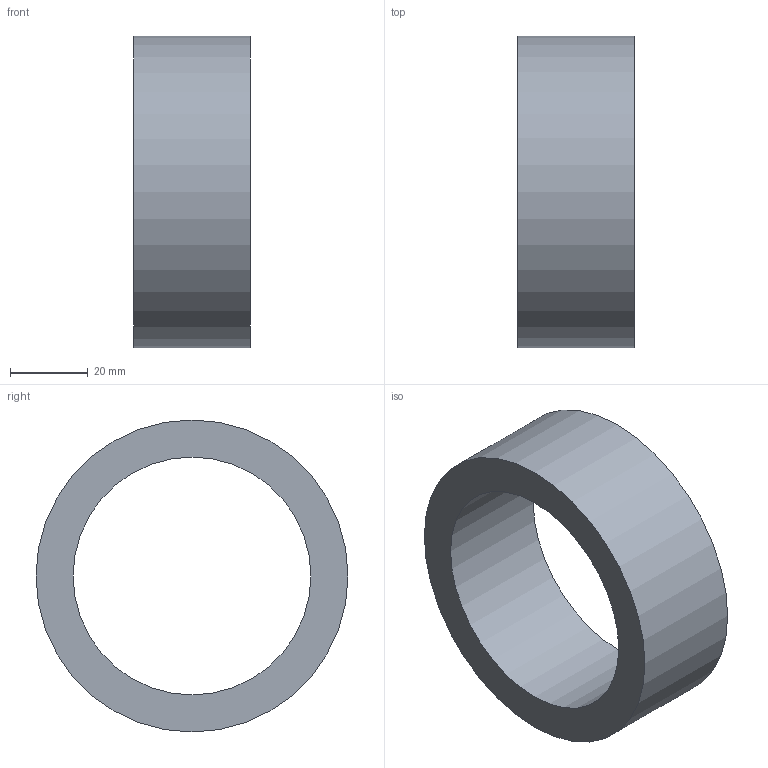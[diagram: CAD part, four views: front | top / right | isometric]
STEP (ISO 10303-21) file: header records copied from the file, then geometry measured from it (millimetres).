
FILE_DESCRIPTION(('Open CASCADE Model'),'2;1');
FILE_NAME('Open CASCADE Shape Model','2026-10-08T06:53:14',('Author'),( 'Open CASCADE'),'Open CASCADE STEP processor 7.8','Open CASCADE 7.8' ,'Unknown');
FILE_SCHEMA(('AUTOMOTIVE_DESIGN { 1 0 10303 214 1 1 1 1 }'));
Length unit declared in the file: millimetre
Products named in the file (1): Open CASCADE STEP translator 7.8 12
Bounding box: 30 x 80 x 80 mm (x, y, z)
Volume: 63122.5 mm3; surface area: 17497.1 mm2
Topology: 1 solids, 1 shells, 4 faces, 6 edges, 4 vertices
Faces by surface type: cylinder 2, plane 2
Full cylindrical faces by diameter (mm): 61 x1, 80 x1
Entity records: 186 total; most frequent: DIRECTION 32, CARTESIAN_POINT 27, ORIENTED_EDGE 12, PCURVE 12, DEFINITIONAL_REPRESENTATION 12, LINE 10, VECTOR 10, AXIS2_PLACEMENT_3D 9
